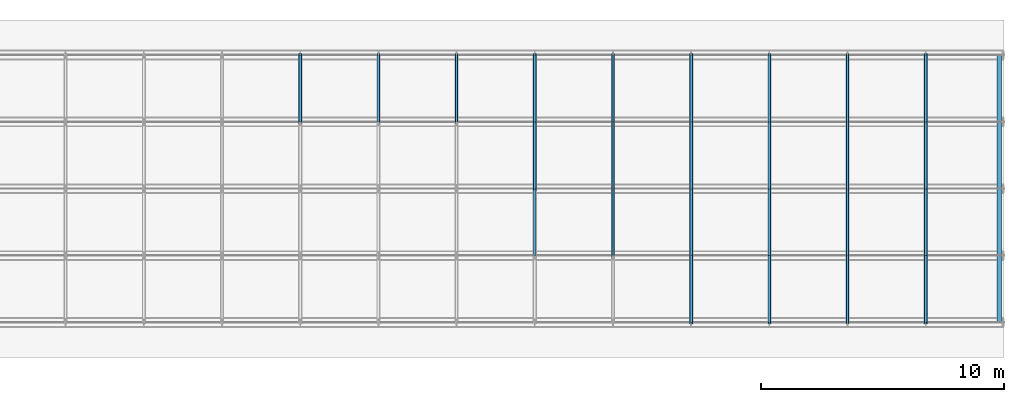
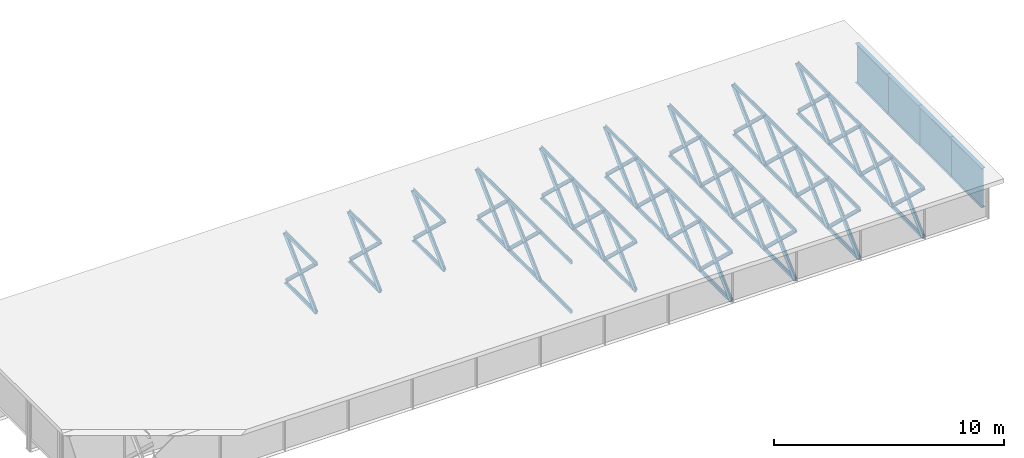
# One storey, part 2 of 20: 102 members.
"""IFC4 building model written with IfcOpenShell, lengths in metres."""

from ifc_helpers import new_model, si_unit, frame, origin, origin_with_axes, origin_2d_with_axis, place, context, subcontext, project, spatial, i_section, l_section, extrude, element, save


model = new_model("IFC4")

# Units and contexts
model_context = context("Model", 3, precision=1e-05, world=origin())
body_context = subcontext(model_context, "Body", "Model", "MODEL_VIEW")
ifc_project = project(units=[si_unit("LENGTHUNIT", "METRE"), si_unit("AREAUNIT", "SQUARE_METRE"), si_unit("VOLUMEUNIT", "CUBIC_METRE"), si_unit("PLANEANGLEUNIT", "RADIAN")], contexts=[model_context])

# Site, building, storey
site_placement = place(None, origin_with_axes())
site = spatial("IfcSite", under=ifc_project, at=site_placement, Name="Default Site")
building_placement = place(site_placement, origin_with_axes())
building = spatial("IfcBuilding", under=site, at=building_placement, Name="Bridge Structure")
storey_placement = place(building_placement, origin_with_axes())
storey = spatial("IfcBuildingStorey", under=building, at=storey_placement, Name="Superstructure")

# Members
for number, where, z_axis, x_axis, name in (
    (1, (16.07142857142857, 2.75, 1.307), (0.0, 0.7248019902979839, -0.6889572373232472), (-1.0, 0.0, 0.0), "Diagonal Brace"),
    (2, (16.07142857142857, 2.75, -1.307), (0.0, 0.7248019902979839, 0.6889572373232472), (-1.0, 0.0, 0.0), "Diagonal Brace"),
):
    element("IfcMember", number, at=place(storey_placement, frame(where, z_axis=z_axis, x_axis=x_axis)), inside=storey, Name=name, context=body_context, shape_type="SweptSolid", body=[
        extrude(l_section(Depth=0.196, Width=0.13, Thickness=0.008, at=origin_2d_with_axis()), origin_with_axes(), (0.0, 0.0, 1.0), 3.794139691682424),
    ])
for number, where, z_axis, x_axis, name in (
    (3, (16.07142857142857, 2.75, -1.307), (0.0, 1.0, 0.0), (-1.0, 0.0, 0.0), "Bottom Chord"),
    (4, (16.07142857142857, 2.75, 1.307), (0.0, 1.0, 0.0), (-1.0, 0.0, 0.0), "Top Chord"),
):
    element("IfcMember", number, at=place(storey_placement, frame(where, z_axis=z_axis, x_axis=x_axis)), inside=storey, Name=name, context=body_context, shape_type="SweptSolid", body=[
        extrude(l_section(Depth=0.169, Width=0.10400000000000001, Thickness=0.008, at=origin_2d_with_axis()), origin_with_axes(), (0.0, 0.0, 1.0), 2.75),
    ])
for number, where, z_axis, x_axis, name in (
    (5, (19.28571428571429, 2.75, 1.307), (0.0, 0.7248019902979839, -0.6889572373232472), (-1.0, 0.0, 0.0), "Diagonal Brace"),
    (6, (19.28571428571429, 2.75, -1.307), (0.0, 0.7248019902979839, 0.6889572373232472), (-1.0, 0.0, 0.0), "Diagonal Brace"),
):
    element("IfcMember", number, at=place(storey_placement, frame(where, z_axis=z_axis, x_axis=x_axis)), inside=storey, Name=name, context=body_context, shape_type="SweptSolid", body=[
        extrude(l_section(Depth=0.196, Width=0.13, Thickness=0.008, at=origin_2d_with_axis()), origin_with_axes(), (0.0, 0.0, 1.0), 3.794139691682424),
    ])
for number, where, z_axis, x_axis, name in (
    (7, (19.28571428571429, 2.75, -1.307), (0.0, 1.0, 0.0), (-1.0, 0.0, 0.0), "Bottom Chord"),
    (8, (19.28571428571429, 2.75, 1.307), (0.0, 1.0, 0.0), (-1.0, 0.0, 0.0), "Top Chord"),
):
    element("IfcMember", number, at=place(storey_placement, frame(where, z_axis=z_axis, x_axis=x_axis)), inside=storey, Name=name, context=body_context, shape_type="SweptSolid", body=[
        extrude(l_section(Depth=0.169, Width=0.10400000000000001, Thickness=0.008, at=origin_2d_with_axis()), origin_with_axes(), (0.0, 0.0, 1.0), 2.75),
    ])
for number, where, z_axis, x_axis, name in (
    (9, (22.5, 2.75, 1.307), (0.0, 0.7248019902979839, -0.6889572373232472), (-1.0, 0.0, 0.0), "Diagonal Brace"),
    (10, (22.5, 2.75, -1.307), (0.0, 0.7248019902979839, 0.6889572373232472), (-1.0, 0.0, 0.0), "Diagonal Brace"),
):
    element("IfcMember", number, at=place(storey_placement, frame(where, z_axis=z_axis, x_axis=x_axis)), inside=storey, Name=name, context=body_context, shape_type="SweptSolid", body=[
        extrude(l_section(Depth=0.196, Width=0.13, Thickness=0.008, at=origin_2d_with_axis()), origin_with_axes(), (0.0, 0.0, 1.0), 3.794139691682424),
    ])
for number, where, z_axis, x_axis, name in (
    (11, (22.5, 2.75, -1.307), (0.0, 1.0, 0.0), (-1.0, 0.0, 0.0), "Bottom Chord"),
    (12, (22.5, 2.75, 1.307), (0.0, 1.0, 0.0), (-1.0, 0.0, 0.0), "Top Chord"),
    (13, (25.714285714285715, -2.75, -1.307), (0.0, 1.0, 0.0), (-1.0, 0.0, 0.0), "Bottom Chord"),
    (14, (25.714285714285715, -2.75, 1.307), (0.0, 1.0, 0.0), (-1.0, 0.0, 0.0), "Top Chord"),
):
    element("IfcMember", number, at=place(storey_placement, frame(where, z_axis=z_axis, x_axis=x_axis)), inside=storey, Name=name, context=body_context, shape_type="SweptSolid", body=[
        extrude(l_section(Depth=0.169, Width=0.10400000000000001, Thickness=0.008, at=origin_2d_with_axis()), origin_with_axes(), (0.0, 0.0, 1.0), 2.75),
    ])
for number, where, z_axis, x_axis, name in (
    (15, (25.714285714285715, 0.0, 1.307), (0.0, 0.7248019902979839, -0.6889572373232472), (-1.0, 0.0, 0.0), "Diagonal Brace"),
    (16, (25.714285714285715, 0.0, -1.307), (0.0, 0.7248019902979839, 0.6889572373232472), (-1.0, 0.0, 0.0), "Diagonal Brace"),
):
    element("IfcMember", number, at=place(storey_placement, frame(where, z_axis=z_axis, x_axis=x_axis)), inside=storey, Name=name, context=body_context, shape_type="SweptSolid", body=[
        extrude(l_section(Depth=0.196, Width=0.13, Thickness=0.008, at=origin_2d_with_axis()), origin_with_axes(), (0.0, 0.0, 1.0), 3.794139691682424),
    ])
for number, where, z_axis, x_axis, name in (
    (17, (25.714285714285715, 0.0, -1.307), (0.0, 1.0, 0.0), (-1.0, 0.0, 0.0), "Bottom Chord"),
    (18, (25.714285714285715, 0.0, 1.307), (0.0, 1.0, 0.0), (-1.0, 0.0, 0.0), "Top Chord"),
):
    element("IfcMember", number, at=place(storey_placement, frame(where, z_axis=z_axis, x_axis=x_axis)), inside=storey, Name=name, context=body_context, shape_type="SweptSolid", body=[
        extrude(l_section(Depth=0.169, Width=0.10400000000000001, Thickness=0.008, at=origin_2d_with_axis()), origin_with_axes(), (0.0, 0.0, 1.0), 2.75),
    ])
for number, where, z_axis, x_axis, name in (
    (19, (25.714285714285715, 2.75, 1.307), (0.0, 0.7248019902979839, -0.6889572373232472), (-1.0, 0.0, 0.0), "Diagonal Brace"),
    (20, (25.714285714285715, 2.75, -1.307), (0.0, 0.7248019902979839, 0.6889572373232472), (-1.0, 0.0, 0.0), "Diagonal Brace"),
):
    element("IfcMember", number, at=place(storey_placement, frame(where, z_axis=z_axis, x_axis=x_axis)), inside=storey, Name=name, context=body_context, shape_type="SweptSolid", body=[
        extrude(l_section(Depth=0.196, Width=0.13, Thickness=0.008, at=origin_2d_with_axis()), origin_with_axes(), (0.0, 0.0, 1.0), 3.794139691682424),
    ])
for number, where, z_axis, x_axis, name in (
    (21, (25.714285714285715, 2.75, -1.307), (0.0, 1.0, 0.0), (-1.0, 0.0, 0.0), "Bottom Chord"),
    (22, (25.714285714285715, 2.75, 1.307), (0.0, 1.0, 0.0), (-1.0, 0.0, 0.0), "Top Chord"),
):
    element("IfcMember", number, at=place(storey_placement, frame(where, z_axis=z_axis, x_axis=x_axis)), inside=storey, Name=name, context=body_context, shape_type="SweptSolid", body=[
        extrude(l_section(Depth=0.169, Width=0.10400000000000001, Thickness=0.008, at=origin_2d_with_axis()), origin_with_axes(), (0.0, 0.0, 1.0), 2.75),
    ])
for number, where, z_axis, x_axis, name in (
    (23, (28.928571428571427, -2.75, 1.307), (0.0, 0.7248019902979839, -0.6889572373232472), (-1.0, 0.0, 0.0), "Diagonal Brace"),
    (24, (28.928571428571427, -2.75, -1.307), (0.0, 0.7248019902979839, 0.6889572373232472), (-1.0, 0.0, 0.0), "Diagonal Brace"),
):
    element("IfcMember", number, at=place(storey_placement, frame(where, z_axis=z_axis, x_axis=x_axis)), inside=storey, Name=name, context=body_context, shape_type="SweptSolid", body=[
        extrude(l_section(Depth=0.196, Width=0.13, Thickness=0.008, at=origin_2d_with_axis()), origin_with_axes(), (0.0, 0.0, 1.0), 3.794139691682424),
    ])
for number, where, z_axis, x_axis, name in (
    (25, (28.928571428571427, -2.75, -1.307), (0.0, 1.0, 0.0), (-1.0, 0.0, 0.0), "Bottom Chord"),
    (26, (28.928571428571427, -2.75, 1.307), (0.0, 1.0, 0.0), (-1.0, 0.0, 0.0), "Top Chord"),
):
    element("IfcMember", number, at=place(storey_placement, frame(where, z_axis=z_axis, x_axis=x_axis)), inside=storey, Name=name, context=body_context, shape_type="SweptSolid", body=[
        extrude(l_section(Depth=0.169, Width=0.10400000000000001, Thickness=0.008, at=origin_2d_with_axis()), origin_with_axes(), (0.0, 0.0, 1.0), 2.75),
    ])
for number, where, z_axis, x_axis, name in (
    (27, (28.928571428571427, 0.0, 1.307), (0.0, 0.7248019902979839, -0.6889572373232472), (-1.0, 0.0, 0.0), "Diagonal Brace"),
    (28, (28.928571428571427, 0.0, -1.307), (0.0, 0.7248019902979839, 0.6889572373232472), (-1.0, 0.0, 0.0), "Diagonal Brace"),
):
    element("IfcMember", number, at=place(storey_placement, frame(where, z_axis=z_axis, x_axis=x_axis)), inside=storey, Name=name, context=body_context, shape_type="SweptSolid", body=[
        extrude(l_section(Depth=0.196, Width=0.13, Thickness=0.008, at=origin_2d_with_axis()), origin_with_axes(), (0.0, 0.0, 1.0), 3.794139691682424),
    ])
for number, where, z_axis, x_axis, name in (
    (29, (28.928571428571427, 0.0, -1.307), (0.0, 1.0, 0.0), (-1.0, 0.0, 0.0), "Bottom Chord"),
    (30, (28.928571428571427, 0.0, 1.307), (0.0, 1.0, 0.0), (-1.0, 0.0, 0.0), "Top Chord"),
):
    element("IfcMember", number, at=place(storey_placement, frame(where, z_axis=z_axis, x_axis=x_axis)), inside=storey, Name=name, context=body_context, shape_type="SweptSolid", body=[
        extrude(l_section(Depth=0.169, Width=0.10400000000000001, Thickness=0.008, at=origin_2d_with_axis()), origin_with_axes(), (0.0, 0.0, 1.0), 2.75),
    ])
for number, where, z_axis, x_axis, name in (
    (31, (28.928571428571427, 2.75, 1.307), (0.0, 0.7248019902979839, -0.6889572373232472), (-1.0, 0.0, 0.0), "Diagonal Brace"),
    (32, (28.928571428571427, 2.75, -1.307), (0.0, 0.7248019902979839, 0.6889572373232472), (-1.0, 0.0, 0.0), "Diagonal Brace"),
):
    element("IfcMember", number, at=place(storey_placement, frame(where, z_axis=z_axis, x_axis=x_axis)), inside=storey, Name=name, context=body_context, shape_type="SweptSolid", body=[
        extrude(l_section(Depth=0.196, Width=0.13, Thickness=0.008, at=origin_2d_with_axis()), origin_with_axes(), (0.0, 0.0, 1.0), 3.794139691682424),
    ])
for number, where, z_axis, x_axis, name in (
    (33, (28.928571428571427, 2.75, -1.307), (0.0, 1.0, 0.0), (-1.0, 0.0, 0.0), "Bottom Chord"),
    (34, (28.928571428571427, 2.75, 1.307), (0.0, 1.0, 0.0), (-1.0, 0.0, 0.0), "Top Chord"),
):
    element("IfcMember", number, at=place(storey_placement, frame(where, z_axis=z_axis, x_axis=x_axis)), inside=storey, Name=name, context=body_context, shape_type="SweptSolid", body=[
        extrude(l_section(Depth=0.169, Width=0.10400000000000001, Thickness=0.008, at=origin_2d_with_axis()), origin_with_axes(), (0.0, 0.0, 1.0), 2.75),
    ])
for number, where, z_axis, x_axis, name in (
    (35, (32.14285714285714, -5.5, 1.307), (0.0, 0.7248019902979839, -0.6889572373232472), (-1.0, 0.0, 0.0), "Diagonal Brace"),
    (36, (32.14285714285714, -5.5, -1.307), (0.0, 0.7248019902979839, 0.6889572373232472), (-1.0, 0.0, 0.0), "Diagonal Brace"),
):
    element("IfcMember", number, at=place(storey_placement, frame(where, z_axis=z_axis, x_axis=x_axis)), inside=storey, Name=name, context=body_context, shape_type="SweptSolid", body=[
        extrude(l_section(Depth=0.196, Width=0.13, Thickness=0.008, at=origin_2d_with_axis()), origin_with_axes(), (0.0, 0.0, 1.0), 3.794139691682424),
    ])
for number, where, z_axis, x_axis, name in (
    (37, (32.14285714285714, -5.5, -1.307), (0.0, 1.0, 0.0), (-1.0, 0.0, 0.0), "Bottom Chord"),
    (38, (32.14285714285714, -5.5, 1.307), (0.0, 1.0, 0.0), (-1.0, 0.0, 0.0), "Top Chord"),
):
    element("IfcMember", number, at=place(storey_placement, frame(where, z_axis=z_axis, x_axis=x_axis)), inside=storey, Name=name, context=body_context, shape_type="SweptSolid", body=[
        extrude(l_section(Depth=0.169, Width=0.10400000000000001, Thickness=0.008, at=origin_2d_with_axis()), origin_with_axes(), (0.0, 0.0, 1.0), 2.75),
    ])
for number, where, z_axis, x_axis, name in (
    (39, (32.14285714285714, -2.75, 1.307), (0.0, 0.7248019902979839, -0.6889572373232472), (-1.0, 0.0, 0.0), "Diagonal Brace"),
    (40, (32.14285714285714, -2.75, -1.307), (0.0, 0.7248019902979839, 0.6889572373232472), (-1.0, 0.0, 0.0), "Diagonal Brace"),
):
    element("IfcMember", number, at=place(storey_placement, frame(where, z_axis=z_axis, x_axis=x_axis)), inside=storey, Name=name, context=body_context, shape_type="SweptSolid", body=[
        extrude(l_section(Depth=0.196, Width=0.13, Thickness=0.008, at=origin_2d_with_axis()), origin_with_axes(), (0.0, 0.0, 1.0), 3.794139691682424),
    ])
for number, where, z_axis, x_axis, name in (
    (41, (32.14285714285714, -2.75, -1.307), (0.0, 1.0, 0.0), (-1.0, 0.0, 0.0), "Bottom Chord"),
    (42, (32.14285714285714, -2.75, 1.307), (0.0, 1.0, 0.0), (-1.0, 0.0, 0.0), "Top Chord"),
):
    element("IfcMember", number, at=place(storey_placement, frame(where, z_axis=z_axis, x_axis=x_axis)), inside=storey, Name=name, context=body_context, shape_type="SweptSolid", body=[
        extrude(l_section(Depth=0.169, Width=0.10400000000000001, Thickness=0.008, at=origin_2d_with_axis()), origin_with_axes(), (0.0, 0.0, 1.0), 2.75),
    ])
for number, where, z_axis, x_axis, name in (
    (43, (32.14285714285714, 0.0, 1.307), (0.0, 0.7248019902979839, -0.6889572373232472), (-1.0, 0.0, 0.0), "Diagonal Brace"),
    (44, (32.14285714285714, 0.0, -1.307), (0.0, 0.7248019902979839, 0.6889572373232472), (-1.0, 0.0, 0.0), "Diagonal Brace"),
):
    element("IfcMember", number, at=place(storey_placement, frame(where, z_axis=z_axis, x_axis=x_axis)), inside=storey, Name=name, context=body_context, shape_type="SweptSolid", body=[
        extrude(l_section(Depth=0.196, Width=0.13, Thickness=0.008, at=origin_2d_with_axis()), origin_with_axes(), (0.0, 0.0, 1.0), 3.794139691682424),
    ])
for number, where, z_axis, x_axis, name in (
    (45, (32.14285714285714, 0.0, -1.307), (0.0, 1.0, 0.0), (-1.0, 0.0, 0.0), "Bottom Chord"),
    (46, (32.14285714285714, 0.0, 1.307), (0.0, 1.0, 0.0), (-1.0, 0.0, 0.0), "Top Chord"),
):
    element("IfcMember", number, at=place(storey_placement, frame(where, z_axis=z_axis, x_axis=x_axis)), inside=storey, Name=name, context=body_context, shape_type="SweptSolid", body=[
        extrude(l_section(Depth=0.169, Width=0.10400000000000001, Thickness=0.008, at=origin_2d_with_axis()), origin_with_axes(), (0.0, 0.0, 1.0), 2.75),
    ])
for number, where, z_axis, x_axis, name in (
    (47, (32.14285714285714, 2.75, 1.307), (0.0, 0.7248019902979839, -0.6889572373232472), (-1.0, 0.0, 0.0), "Diagonal Brace"),
    (48, (32.14285714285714, 2.75, -1.307), (0.0, 0.7248019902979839, 0.6889572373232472), (-1.0, 0.0, 0.0), "Diagonal Brace"),
):
    element("IfcMember", number, at=place(storey_placement, frame(where, z_axis=z_axis, x_axis=x_axis)), inside=storey, Name=name, context=body_context, shape_type="SweptSolid", body=[
        extrude(l_section(Depth=0.196, Width=0.13, Thickness=0.008, at=origin_2d_with_axis()), origin_with_axes(), (0.0, 0.0, 1.0), 3.794139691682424),
    ])
for number, where, z_axis, x_axis, name in (
    (49, (32.14285714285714, 2.75, -1.307), (0.0, 1.0, 0.0), (-1.0, 0.0, 0.0), "Bottom Chord"),
    (50, (32.14285714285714, 2.75, 1.307), (0.0, 1.0, 0.0), (-1.0, 0.0, 0.0), "Top Chord"),
):
    element("IfcMember", number, at=place(storey_placement, frame(where, z_axis=z_axis, x_axis=x_axis)), inside=storey, Name=name, context=body_context, shape_type="SweptSolid", body=[
        extrude(l_section(Depth=0.169, Width=0.10400000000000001, Thickness=0.008, at=origin_2d_with_axis()), origin_with_axes(), (0.0, 0.0, 1.0), 2.75),
    ])
for number, where, z_axis, x_axis, name in (
    (51, (35.357142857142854, -5.5, 1.307), (0.0, 0.7248019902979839, -0.6889572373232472), (-1.0, 0.0, 0.0), "Diagonal Brace"),
    (52, (35.357142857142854, -5.5, -1.307), (0.0, 0.7248019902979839, 0.6889572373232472), (-1.0, 0.0, 0.0), "Diagonal Brace"),
):
    element("IfcMember", number, at=place(storey_placement, frame(where, z_axis=z_axis, x_axis=x_axis)), inside=storey, Name=name, context=body_context, shape_type="SweptSolid", body=[
        extrude(l_section(Depth=0.196, Width=0.13, Thickness=0.008, at=origin_2d_with_axis()), origin_with_axes(), (0.0, 0.0, 1.0), 3.794139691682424),
    ])
for number, where, z_axis, x_axis, name in (
    (53, (35.357142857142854, -5.5, -1.307), (0.0, 1.0, 0.0), (-1.0, 0.0, 0.0), "Bottom Chord"),
    (54, (35.357142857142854, -5.5, 1.307), (0.0, 1.0, 0.0), (-1.0, 0.0, 0.0), "Top Chord"),
):
    element("IfcMember", number, at=place(storey_placement, frame(where, z_axis=z_axis, x_axis=x_axis)), inside=storey, Name=name, context=body_context, shape_type="SweptSolid", body=[
        extrude(l_section(Depth=0.169, Width=0.10400000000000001, Thickness=0.008, at=origin_2d_with_axis()), origin_with_axes(), (0.0, 0.0, 1.0), 2.75),
    ])
for number, where, z_axis, x_axis, name in (
    (55, (35.357142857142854, -2.75, 1.307), (0.0, 0.7248019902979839, -0.6889572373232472), (-1.0, 0.0, 0.0), "Diagonal Brace"),
    (56, (35.357142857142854, -2.75, -1.307), (0.0, 0.7248019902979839, 0.6889572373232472), (-1.0, 0.0, 0.0), "Diagonal Brace"),
):
    element("IfcMember", number, at=place(storey_placement, frame(where, z_axis=z_axis, x_axis=x_axis)), inside=storey, Name=name, context=body_context, shape_type="SweptSolid", body=[
        extrude(l_section(Depth=0.196, Width=0.13, Thickness=0.008, at=origin_2d_with_axis()), origin_with_axes(), (0.0, 0.0, 1.0), 3.794139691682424),
    ])
for number, where, z_axis, x_axis, name in (
    (57, (35.357142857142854, -2.75, -1.307), (0.0, 1.0, 0.0), (-1.0, 0.0, 0.0), "Bottom Chord"),
    (58, (35.357142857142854, -2.75, 1.307), (0.0, 1.0, 0.0), (-1.0, 0.0, 0.0), "Top Chord"),
):
    element("IfcMember", number, at=place(storey_placement, frame(where, z_axis=z_axis, x_axis=x_axis)), inside=storey, Name=name, context=body_context, shape_type="SweptSolid", body=[
        extrude(l_section(Depth=0.169, Width=0.10400000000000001, Thickness=0.008, at=origin_2d_with_axis()), origin_with_axes(), (0.0, 0.0, 1.0), 2.75),
    ])
for number, where, z_axis, x_axis, name in (
    (59, (35.357142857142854, 0.0, 1.307), (0.0, 0.7248019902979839, -0.6889572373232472), (-1.0, 0.0, 0.0), "Diagonal Brace"),
    (60, (35.357142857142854, 0.0, -1.307), (0.0, 0.7248019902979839, 0.6889572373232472), (-1.0, 0.0, 0.0), "Diagonal Brace"),
):
    element("IfcMember", number, at=place(storey_placement, frame(where, z_axis=z_axis, x_axis=x_axis)), inside=storey, Name=name, context=body_context, shape_type="SweptSolid", body=[
        extrude(l_section(Depth=0.196, Width=0.13, Thickness=0.008, at=origin_2d_with_axis()), origin_with_axes(), (0.0, 0.0, 1.0), 3.794139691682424),
    ])
for number, where, z_axis, x_axis, name in (
    (61, (35.357142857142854, 0.0, -1.307), (0.0, 1.0, 0.0), (-1.0, 0.0, 0.0), "Bottom Chord"),
    (62, (35.357142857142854, 0.0, 1.307), (0.0, 1.0, 0.0), (-1.0, 0.0, 0.0), "Top Chord"),
):
    element("IfcMember", number, at=place(storey_placement, frame(where, z_axis=z_axis, x_axis=x_axis)), inside=storey, Name=name, context=body_context, shape_type="SweptSolid", body=[
        extrude(l_section(Depth=0.169, Width=0.10400000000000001, Thickness=0.008, at=origin_2d_with_axis()), origin_with_axes(), (0.0, 0.0, 1.0), 2.75),
    ])
for number, where, z_axis, x_axis, name in (
    (63, (35.357142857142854, 2.75, 1.307), (0.0, 0.7248019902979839, -0.6889572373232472), (-1.0, 0.0, 0.0), "Diagonal Brace"),
    (64, (35.357142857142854, 2.75, -1.307), (0.0, 0.7248019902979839, 0.6889572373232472), (-1.0, 0.0, 0.0), "Diagonal Brace"),
):
    element("IfcMember", number, at=place(storey_placement, frame(where, z_axis=z_axis, x_axis=x_axis)), inside=storey, Name=name, context=body_context, shape_type="SweptSolid", body=[
        extrude(l_section(Depth=0.196, Width=0.13, Thickness=0.008, at=origin_2d_with_axis()), origin_with_axes(), (0.0, 0.0, 1.0), 3.794139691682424),
    ])
for number, where, z_axis, x_axis, name in (
    (65, (35.357142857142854, 2.75, -1.307), (0.0, 1.0, 0.0), (-1.0, 0.0, 0.0), "Bottom Chord"),
    (66, (35.357142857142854, 2.75, 1.307), (0.0, 1.0, 0.0), (-1.0, 0.0, 0.0), "Top Chord"),
):
    element("IfcMember", number, at=place(storey_placement, frame(where, z_axis=z_axis, x_axis=x_axis)), inside=storey, Name=name, context=body_context, shape_type="SweptSolid", body=[
        extrude(l_section(Depth=0.169, Width=0.10400000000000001, Thickness=0.008, at=origin_2d_with_axis()), origin_with_axes(), (0.0, 0.0, 1.0), 2.75),
    ])
for number, where, z_axis, x_axis, name in (
    (67, (38.57142857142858, -5.5, 1.307), (0.0, 0.7248019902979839, -0.6889572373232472), (-1.0, 0.0, 0.0), "Diagonal Brace"),
    (68, (38.57142857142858, -5.5, -1.307), (0.0, 0.7248019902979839, 0.6889572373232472), (-1.0, 0.0, 0.0), "Diagonal Brace"),
):
    element("IfcMember", number, at=place(storey_placement, frame(where, z_axis=z_axis, x_axis=x_axis)), inside=storey, Name=name, context=body_context, shape_type="SweptSolid", body=[
        extrude(l_section(Depth=0.196, Width=0.13, Thickness=0.008, at=origin_2d_with_axis()), origin_with_axes(), (0.0, 0.0, 1.0), 3.794139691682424),
    ])
for number, where, z_axis, x_axis, name in (
    (69, (38.57142857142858, -5.5, -1.307), (0.0, 1.0, 0.0), (-1.0, 0.0, 0.0), "Bottom Chord"),
    (70, (38.57142857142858, -5.5, 1.307), (0.0, 1.0, 0.0), (-1.0, 0.0, 0.0), "Top Chord"),
):
    element("IfcMember", number, at=place(storey_placement, frame(where, z_axis=z_axis, x_axis=x_axis)), inside=storey, Name=name, context=body_context, shape_type="SweptSolid", body=[
        extrude(l_section(Depth=0.169, Width=0.10400000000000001, Thickness=0.008, at=origin_2d_with_axis()), origin_with_axes(), (0.0, 0.0, 1.0), 2.75),
    ])
for number, where, z_axis, x_axis, name in (
    (71, (38.57142857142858, -2.75, 1.307), (0.0, 0.7248019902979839, -0.6889572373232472), (-1.0, 0.0, 0.0), "Diagonal Brace"),
    (72, (38.57142857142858, -2.75, -1.307), (0.0, 0.7248019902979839, 0.6889572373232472), (-1.0, 0.0, 0.0), "Diagonal Brace"),
):
    element("IfcMember", number, at=place(storey_placement, frame(where, z_axis=z_axis, x_axis=x_axis)), inside=storey, Name=name, context=body_context, shape_type="SweptSolid", body=[
        extrude(l_section(Depth=0.196, Width=0.13, Thickness=0.008, at=origin_2d_with_axis()), origin_with_axes(), (0.0, 0.0, 1.0), 3.794139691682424),
    ])
for number, where, z_axis, x_axis, name in (
    (73, (38.57142857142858, -2.75, -1.307), (0.0, 1.0, 0.0), (-1.0, 0.0, 0.0), "Bottom Chord"),
    (74, (38.57142857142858, -2.75, 1.307), (0.0, 1.0, 0.0), (-1.0, 0.0, 0.0), "Top Chord"),
):
    element("IfcMember", number, at=place(storey_placement, frame(where, z_axis=z_axis, x_axis=x_axis)), inside=storey, Name=name, context=body_context, shape_type="SweptSolid", body=[
        extrude(l_section(Depth=0.169, Width=0.10400000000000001, Thickness=0.008, at=origin_2d_with_axis()), origin_with_axes(), (0.0, 0.0, 1.0), 2.75),
    ])
for number, where, z_axis, x_axis, name in (
    (75, (38.57142857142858, 0.0, 1.307), (0.0, 0.7248019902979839, -0.6889572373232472), (-1.0, 0.0, 0.0), "Diagonal Brace"),
    (76, (38.57142857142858, 0.0, -1.307), (0.0, 0.7248019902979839, 0.6889572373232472), (-1.0, 0.0, 0.0), "Diagonal Brace"),
):
    element("IfcMember", number, at=place(storey_placement, frame(where, z_axis=z_axis, x_axis=x_axis)), inside=storey, Name=name, context=body_context, shape_type="SweptSolid", body=[
        extrude(l_section(Depth=0.196, Width=0.13, Thickness=0.008, at=origin_2d_with_axis()), origin_with_axes(), (0.0, 0.0, 1.0), 3.794139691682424),
    ])
for number, where, z_axis, x_axis, name in (
    (77, (38.57142857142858, 0.0, -1.307), (0.0, 1.0, 0.0), (-1.0, 0.0, 0.0), "Bottom Chord"),
    (78, (38.57142857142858, 0.0, 1.307), (0.0, 1.0, 0.0), (-1.0, 0.0, 0.0), "Top Chord"),
):
    element("IfcMember", number, at=place(storey_placement, frame(where, z_axis=z_axis, x_axis=x_axis)), inside=storey, Name=name, context=body_context, shape_type="SweptSolid", body=[
        extrude(l_section(Depth=0.169, Width=0.10400000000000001, Thickness=0.008, at=origin_2d_with_axis()), origin_with_axes(), (0.0, 0.0, 1.0), 2.75),
    ])
for number, where, z_axis, x_axis, name in (
    (79, (38.57142857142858, 2.75, 1.307), (0.0, 0.7248019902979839, -0.6889572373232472), (-1.0, 0.0, 0.0), "Diagonal Brace"),
    (80, (38.57142857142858, 2.75, -1.307), (0.0, 0.7248019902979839, 0.6889572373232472), (-1.0, 0.0, 0.0), "Diagonal Brace"),
):
    element("IfcMember", number, at=place(storey_placement, frame(where, z_axis=z_axis, x_axis=x_axis)), inside=storey, Name=name, context=body_context, shape_type="SweptSolid", body=[
        extrude(l_section(Depth=0.196, Width=0.13, Thickness=0.008, at=origin_2d_with_axis()), origin_with_axes(), (0.0, 0.0, 1.0), 3.794139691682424),
    ])
for number, where, z_axis, x_axis, name in (
    (81, (38.57142857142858, 2.75, -1.307), (0.0, 1.0, 0.0), (-1.0, 0.0, 0.0), "Bottom Chord"),
    (82, (38.57142857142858, 2.75, 1.307), (0.0, 1.0, 0.0), (-1.0, 0.0, 0.0), "Top Chord"),
):
    element("IfcMember", number, at=place(storey_placement, frame(where, z_axis=z_axis, x_axis=x_axis)), inside=storey, Name=name, context=body_context, shape_type="SweptSolid", body=[
        extrude(l_section(Depth=0.169, Width=0.10400000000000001, Thickness=0.008, at=origin_2d_with_axis()), origin_with_axes(), (0.0, 0.0, 1.0), 2.75),
    ])
for number, where, z_axis, x_axis, name in (
    (83, (41.785714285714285, -5.5, 1.307), (0.0, 0.7248019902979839, -0.6889572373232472), (-1.0, 0.0, 0.0), "Diagonal Brace"),
    (84, (41.785714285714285, -5.5, -1.307), (0.0, 0.7248019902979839, 0.6889572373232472), (-1.0, 0.0, 0.0), "Diagonal Brace"),
):
    element("IfcMember", number, at=place(storey_placement, frame(where, z_axis=z_axis, x_axis=x_axis)), inside=storey, Name=name, context=body_context, shape_type="SweptSolid", body=[
        extrude(l_section(Depth=0.196, Width=0.13, Thickness=0.008, at=origin_2d_with_axis()), origin_with_axes(), (0.0, 0.0, 1.0), 3.794139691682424),
    ])
for number, where, z_axis, x_axis, name in (
    (85, (41.785714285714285, -5.5, -1.307), (0.0, 1.0, 0.0), (-1.0, 0.0, 0.0), "Bottom Chord"),
    (86, (41.785714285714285, -5.5, 1.307), (0.0, 1.0, 0.0), (-1.0, 0.0, 0.0), "Top Chord"),
):
    element("IfcMember", number, at=place(storey_placement, frame(where, z_axis=z_axis, x_axis=x_axis)), inside=storey, Name=name, context=body_context, shape_type="SweptSolid", body=[
        extrude(l_section(Depth=0.169, Width=0.10400000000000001, Thickness=0.008, at=origin_2d_with_axis()), origin_with_axes(), (0.0, 0.0, 1.0), 2.75),
    ])
for number, where, z_axis, x_axis, name in (
    (87, (41.785714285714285, -2.75, 1.307), (0.0, 0.7248019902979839, -0.6889572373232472), (-1.0, 0.0, 0.0), "Diagonal Brace"),
    (88, (41.785714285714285, -2.75, -1.307), (0.0, 0.7248019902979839, 0.6889572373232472), (-1.0, 0.0, 0.0), "Diagonal Brace"),
):
    element("IfcMember", number, at=place(storey_placement, frame(where, z_axis=z_axis, x_axis=x_axis)), inside=storey, Name=name, context=body_context, shape_type="SweptSolid", body=[
        extrude(l_section(Depth=0.196, Width=0.13, Thickness=0.008, at=origin_2d_with_axis()), origin_with_axes(), (0.0, 0.0, 1.0), 3.794139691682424),
    ])
for number, where, z_axis, x_axis, name in (
    (89, (41.785714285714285, -2.75, -1.307), (0.0, 1.0, 0.0), (-1.0, 0.0, 0.0), "Bottom Chord"),
    (90, (41.785714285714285, -2.75, 1.307), (0.0, 1.0, 0.0), (-1.0, 0.0, 0.0), "Top Chord"),
):
    element("IfcMember", number, at=place(storey_placement, frame(where, z_axis=z_axis, x_axis=x_axis)), inside=storey, Name=name, context=body_context, shape_type="SweptSolid", body=[
        extrude(l_section(Depth=0.169, Width=0.10400000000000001, Thickness=0.008, at=origin_2d_with_axis()), origin_with_axes(), (0.0, 0.0, 1.0), 2.75),
    ])
for number, where, z_axis, x_axis, name in (
    (91, (41.785714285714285, 0.0, 1.307), (0.0, 0.7248019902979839, -0.6889572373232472), (-1.0, 0.0, 0.0), "Diagonal Brace"),
    (92, (41.785714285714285, 0.0, -1.307), (0.0, 0.7248019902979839, 0.6889572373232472), (-1.0, 0.0, 0.0), "Diagonal Brace"),
):
    element("IfcMember", number, at=place(storey_placement, frame(where, z_axis=z_axis, x_axis=x_axis)), inside=storey, Name=name, context=body_context, shape_type="SweptSolid", body=[
        extrude(l_section(Depth=0.196, Width=0.13, Thickness=0.008, at=origin_2d_with_axis()), origin_with_axes(), (0.0, 0.0, 1.0), 3.794139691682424),
    ])
for number, where, z_axis, x_axis, name in (
    (93, (41.785714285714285, 0.0, -1.307), (0.0, 1.0, 0.0), (-1.0, 0.0, 0.0), "Bottom Chord"),
    (94, (41.785714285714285, 0.0, 1.307), (0.0, 1.0, 0.0), (-1.0, 0.0, 0.0), "Top Chord"),
):
    element("IfcMember", number, at=place(storey_placement, frame(where, z_axis=z_axis, x_axis=x_axis)), inside=storey, Name=name, context=body_context, shape_type="SweptSolid", body=[
        extrude(l_section(Depth=0.169, Width=0.10400000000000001, Thickness=0.008, at=origin_2d_with_axis()), origin_with_axes(), (0.0, 0.0, 1.0), 2.75),
    ])
for number, where, z_axis, x_axis, name in (
    (95, (41.785714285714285, 2.75, 1.307), (0.0, 0.7248019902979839, -0.6889572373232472), (-1.0, 0.0, 0.0), "Diagonal Brace"),
    (96, (41.785714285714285, 2.75, -1.307), (0.0, 0.7248019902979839, 0.6889572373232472), (-1.0, 0.0, 0.0), "Diagonal Brace"),
):
    element("IfcMember", number, at=place(storey_placement, frame(where, z_axis=z_axis, x_axis=x_axis)), inside=storey, Name=name, context=body_context, shape_type="SweptSolid", body=[
        extrude(l_section(Depth=0.196, Width=0.13, Thickness=0.008, at=origin_2d_with_axis()), origin_with_axes(), (0.0, 0.0, 1.0), 3.794139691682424),
    ])
for number, where, z_axis, x_axis, name in (
    (97, (41.785714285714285, 2.75, -1.307), (0.0, 1.0, 0.0), (-1.0, 0.0, 0.0), "Bottom Chord"),
    (98, (41.785714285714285, 2.75, 1.307), (0.0, 1.0, 0.0), (-1.0, 0.0, 0.0), "Top Chord"),
):
    element("IfcMember", number, at=place(storey_placement, frame(where, z_axis=z_axis, x_axis=x_axis)), inside=storey, Name=name, context=body_context, shape_type="SweptSolid", body=[
        extrude(l_section(Depth=0.169, Width=0.10400000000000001, Thickness=0.008, at=origin_2d_with_axis()), origin_with_axes(), (0.0, 0.0, 1.0), 2.75),
    ])
for number, where, z_axis, x_axis, name in (
    (99, (44.800000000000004, -5.5, 0.2615), (0.0, 1.0, 0.0), (-1.0, 0.0, 0.0), "End Diaphragm"),
    (100, (44.800000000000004, -2.75, 0.2615), (0.0, 1.0, 0.0), (-1.0, 0.0, 0.0), "End Diaphragm"),
    (101, (44.800000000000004, 0.0, 0.2615), (0.0, 1.0, 0.0), (-1.0, 0.0, 0.0), "End Diaphragm"),
    (102, (44.800000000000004, 2.75, 0.2615), (0.0, 1.0, 0.0), (-1.0, 0.0, 0.0), "End Diaphragm"),
):
    element("IfcMember", number, at=place(storey_placement, frame(where, z_axis=z_axis, x_axis=x_axis)), inside=storey, Name=name, context=body_context, shape_type="SweptSolid", body=[
        extrude(i_section(OverallWidth=0.195, OverallDepth=2.091, WebThickness=0.018000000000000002, FlangeThickness=0.012, at=origin_2d_with_axis()), origin_with_axes(), (0.0, 0.0, 1.0), 2.75),
    ])

save(model, "model.ifc")
